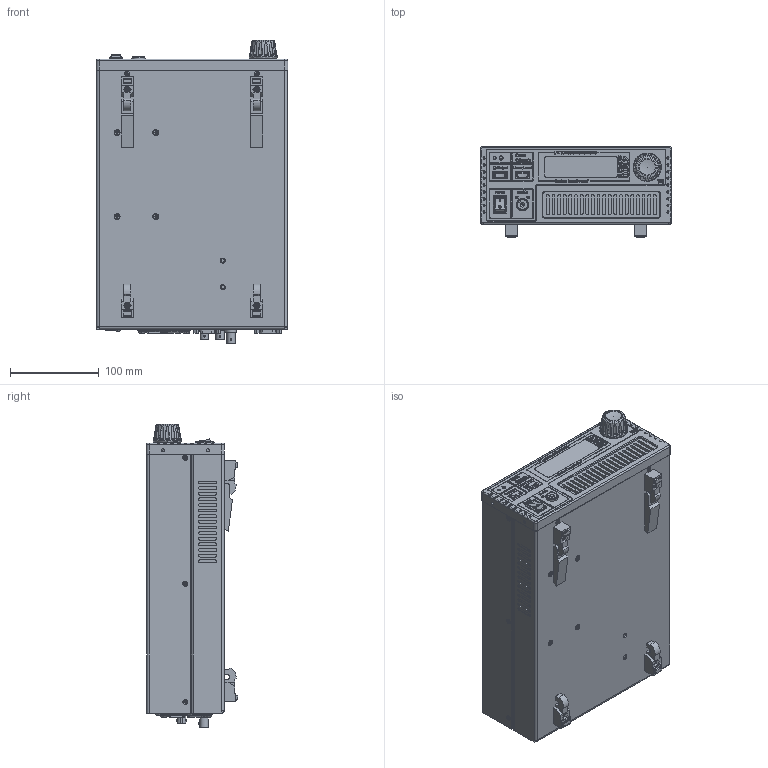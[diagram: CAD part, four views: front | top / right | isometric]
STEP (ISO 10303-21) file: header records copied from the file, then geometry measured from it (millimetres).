
FILE_DESCRIPTION (( 'STEP AP214' ), '1' );
FILE_NAME ('4300-LaserSource.STEP', '2014-04-30T16:15:14', ( '' ), ( '' ), 'SwSTEP 2.0', 'SolidWorks 2014', '' );
FILE_SCHEMA (( 'AUTOMOTIVE_DESIGN' ));
Length unit declared in the file: millimetre
Products named in the file (1): 4300-LaserSource
Bounding box: 215.9 x 103.1 x 342.48 mm (x, y, z)
Volume: 5718251.5 mm3; surface area: 276695.3 mm2
Topology: 8 solids, 8 shells, 4817 faces, 12570 edges, 8237 vertices
Faces by surface type: plane 2667, bspline 1391, cylinder 564, cone 195
Full cylindrical faces by diameter (mm): 0.988 x1, 1.016 x9, 1.143 x9, 1.3 x2, 1.6 x16, 1.981 x4, 2.032 x2, 2.083 x9, 2.108 x2, 2.134 x4, 2.286 x1, 2.9 x4, 3.1 x4, 3.175 x4, 3.302 x1, 3.353 x4, 3.454 x12, 3.98 x1, 4.166 x8, 4.369 x4, 4.445 x1, 4.674 x2, 4.801 x4, 4.9 x4, 5.563 x2, 6.858 x4, 8.179 x4, 8.306 x1, 9.525 x1, 9.652 x2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
Entity records: 280349 total; most frequent: CARTESIAN_POINT 119850, ORIENTED_EDGE 24436, DIRECTION 17504, EDGE_CURVE 12218, VERTEX_POINT 8129, LINE 7692, VECTOR 7692, EDGE_LOOP 5575
